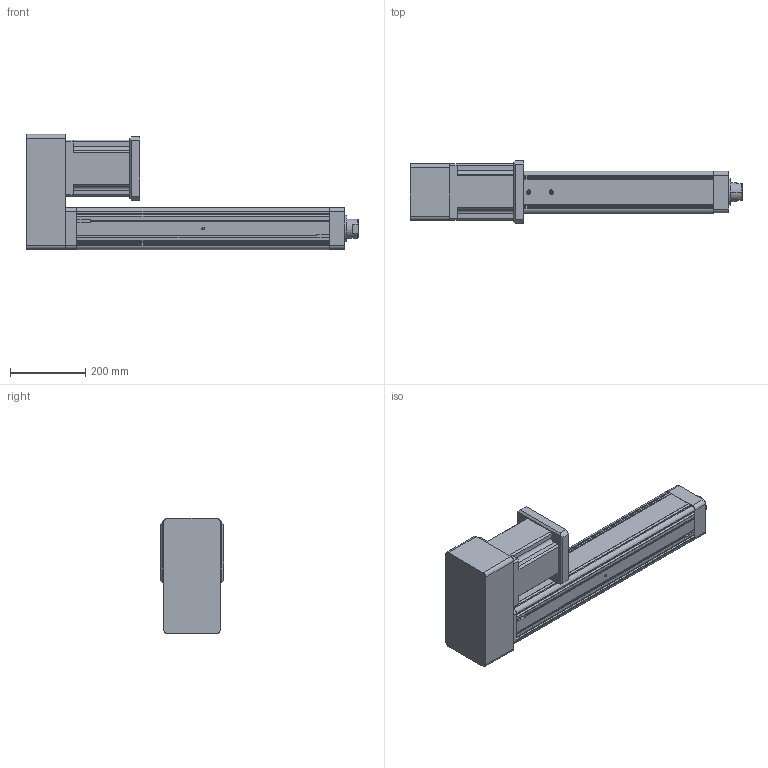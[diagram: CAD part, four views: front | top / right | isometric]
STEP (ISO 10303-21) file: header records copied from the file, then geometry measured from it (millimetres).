
FILE_DESCRIPTION (( 'STEP AP203' ), '1' );
FILE_NAME ('YRJ110-L500-H1K2.STEP', '2020-01-04T05:51:01', ( 'User' ), ( 'China' ), 'SwSTEP 2.0', 'SolidWorks 2016', '' );
FILE_SCHEMA (( 'CONFIG_CONTROL_DESIGN' ));
Length unit declared in the file: millimetre
Products named in the file (7): 萇儂碟-110; 142熬厒儂; K2-110; YRJ110-L500-H1K2; 095-100俴最倰第; H1-110-1; H1-110-2
Assembly tree (6 placements, depth 2):
  YRJ110-L500-H1K2
    095-100俴最倰第
    H1-110-1
    H1-110-2
    萇儂碟-110
    142熬厒儂
    K2-110
Bounding box: 881 x 168 x 305.5 mm (x, y, z)
Volume: 12542172.4 mm3; surface area: 1062056.4 mm2
Topology: 6 solids, 6 shells, 311 faces, 854 edges, 545 vertices
Faces by surface type: plane 162, cylinder 114, cone 35
Entity records: 10772 total; most frequent: CARTESIAN_POINT 2035, DIRECTION 1691, ORIENTED_EDGE 1660, EDGE_CURVE 830, LINE 565, VECTOR 565, AXIS2_PLACEMENT_3D 563, VERTEX_POINT 545
